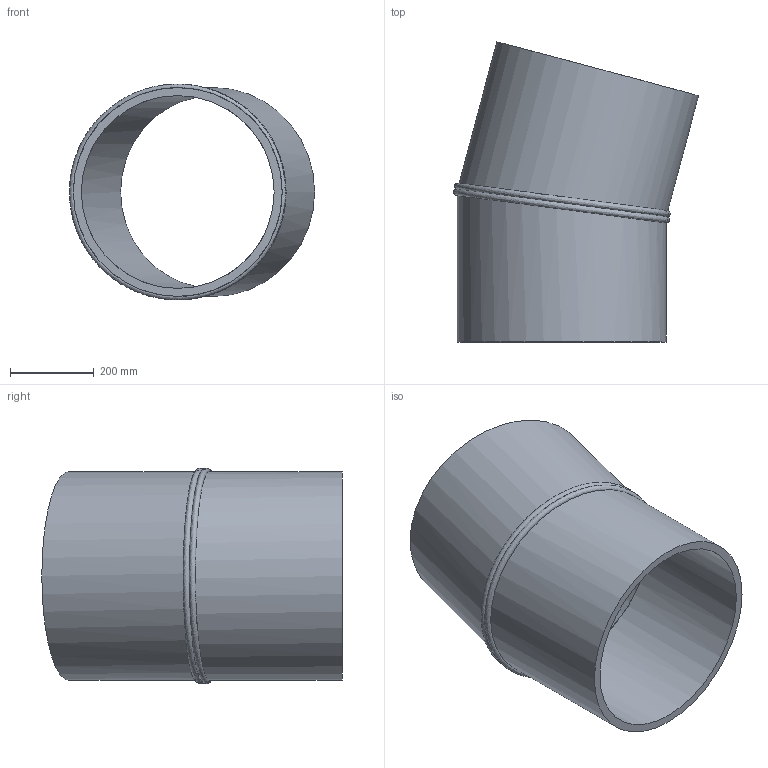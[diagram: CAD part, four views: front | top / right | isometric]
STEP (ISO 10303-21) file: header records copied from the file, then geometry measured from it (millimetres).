
FILE_DESCRIPTION(/* description */ ('Unknown'),/* implementation_level */ '2;1');
FILE_NAME(/* name */ 'Curva 15° a settore DE500 SDR26',/* time_stamp */ '2022-07-25T11:03:12+02:00',/* author */ ('Unknown'),/* organization */ ('Unknown'),/* preprocessor_version */ 'ST-DEVELOPER v18.102',/* originating_system */ 'Solid Edge',/* authorisation */ 'Unknown');
FILE_SCHEMA (('AUTOMOTIVE_DESIGN {1 0 10303 214 3 1 1}'));
Length unit declared in the file: millimetre
Products named in the file (2): Curva 15° a settore DE500 SDR26; Tubo x Gomito 15° DE500 SDR26
Assembly tree (2 placements, depth 2):
  Curva 15° a settore DE500 SDR26
    Tubo x Gomito 15° DE500 SDR26  x2
Bounding box: 587.07 x 719.19 x 516.91 mm (x, y, z)
Volume: 19542337.9 mm3; surface area: 2163291.5 mm2
Topology: 2 solids, 2 shells, 10 faces, 20 edges, 14 vertices
Faces by surface type: cylinder 4, plane 4, bspline 2
Full cylindrical faces by diameter (mm): 461.8 x2, 500 x2
Entity records: 1219 total; most frequent: CARTESIAN_POINT 1082, DIRECTION 20, ORIENTED_EDGE 10, EDGE_LOOP 10, FACE_BOUND 10, AXIS2_PLACEMENT_3D 10, EDGE_CURVE 5, VERTEX_POINT 5
